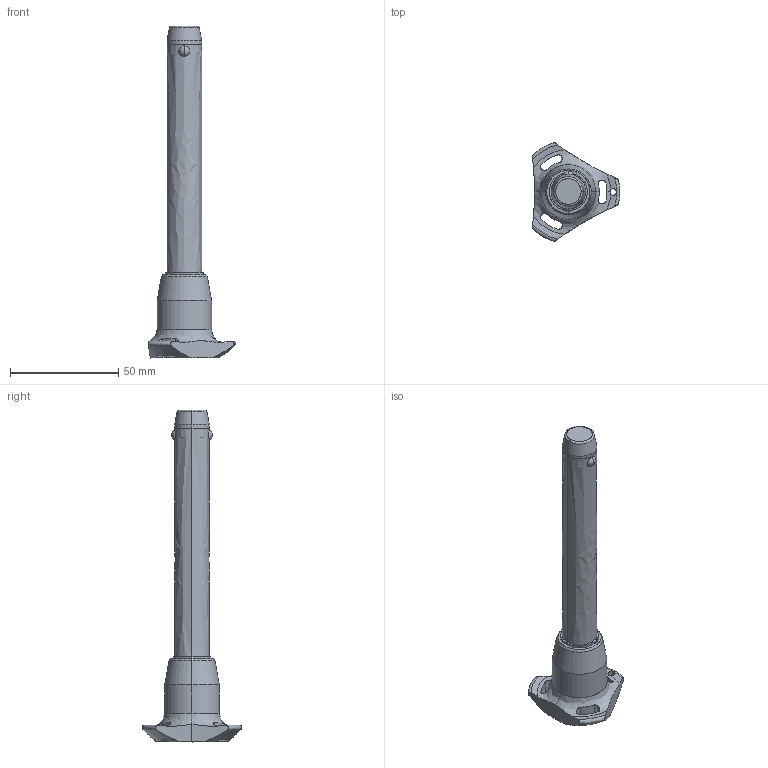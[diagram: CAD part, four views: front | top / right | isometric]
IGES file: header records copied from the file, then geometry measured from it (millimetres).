
Start section: SolidWorks IGES file using analytic representation for surfaces
Global section: file name: C:\Users\ianosborn\Desktop\QR1716_v2\QR1716_v2_20251114_IGES\QR1716.M16-100-T.igs; native system: SolidWorks 2019; preprocessor: SolidWorks 2019; author: IanOsborn; date: 251113.104102; units: millimetre
Bounding box: 40.5 x 45.88 x 153.7 mm (x, y, z)
Surface area: 11619.5 mm2 (no closed solid volume)
Topology: 0 solids, 0 shells, 68 faces, 1402 edges, 1398 vertices
Faces by surface type: revolution 52, bspline 16
